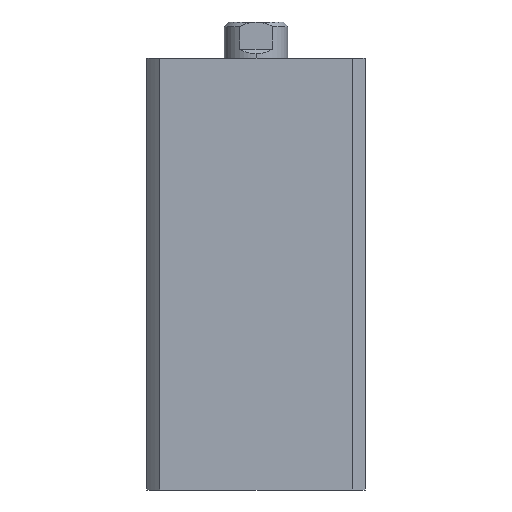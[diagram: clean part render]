
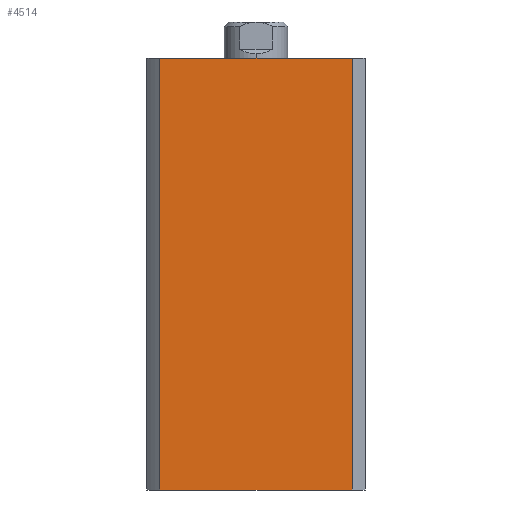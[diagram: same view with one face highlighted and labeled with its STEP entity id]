
A CAD part, left-side view. The second image highlights one B-rep face of the part: STEP entity #4514.
In plain terms, the highlighted planar face has unit normal (-1, 0, 0).
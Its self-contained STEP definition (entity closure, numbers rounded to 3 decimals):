
#656 = CARTESIAN_POINT ( 'NONE',  ( -24., 0., 95. ) ) ;
#659 = PLANE ( 'NONE',  #2327 ) ;
#661 = DIRECTION ( 'NONE',  ( 1., 0., 0. ) ) ;
#662 = DIRECTION ( 'NONE',  ( 0., 0., -1. ) ) ;
#1577 = LINE ( 'NONE', #3749, #1581 ) ;
#1581 = VECTOR ( 'NONE', #3754, 1000. ) ;
#1620 = LINE ( 'NONE', #3617, #1625 ) ;
#1621 = LINE ( 'NONE', #3631, #1623 ) ;
#1622 = LINE ( 'NONE', #3618, #1627 ) ;
#1623 = VECTOR ( 'NONE', #3624, 1000. ) ;
#1625 = VECTOR ( 'NONE', #3612, 1000. ) ;
#1627 = VECTOR ( 'NONE', #3609, 1000. ) ;
#2327 = AXIS2_PLACEMENT_3D ( 'NONE', #656, #661, #662 ) ;
#2430 = EDGE_CURVE ( 'NONE', #4233, #4063, #1577, .T. ) ;
#2676 = EDGE_CURVE ( 'NONE', #3423, #3354, #1621, .T. ) ;
#2677 = EDGE_CURVE ( 'NONE', #4063, #3354, #1620, .T. ) ;
#2678 = EDGE_CURVE ( 'NONE', #4233, #3423, #1622, .T. ) ;
#2930 = FACE_OUTER_BOUND ( 'NONE', #3986, .T. ) ;
#3354 = VERTEX_POINT ( 'NONE', #3811 ) ;
#3423 = VERTEX_POINT ( 'NONE', #4537 ) ;
#3609 = DIRECTION ( 'NONE',  ( 0., 0., -1. ) ) ;
#3612 = DIRECTION ( 'NONE',  ( 0., 0., -1. ) ) ;
#3617 = CARTESIAN_POINT ( 'NONE',  ( -24., -21.166, 95. ) ) ;
#3618 = CARTESIAN_POINT ( 'NONE',  ( -24., 21.166, 95. ) ) ;
#3624 = DIRECTION ( 'NONE',  ( 0., -1., 0. ) ) ;
#3631 = CARTESIAN_POINT ( 'NONE',  ( -24., 0., 0. ) ) ;
#3749 = CARTESIAN_POINT ( 'NONE',  ( -24., 0., 95. ) ) ;
#3754 = DIRECTION ( 'NONE',  ( 0., -1., 0. ) ) ;
#3811 = CARTESIAN_POINT ( 'NONE',  ( -24., -21.166, 0. ) ) ;
#3827 = ORIENTED_EDGE ( 'NONE', *, *, #2678, .T. ) ;
#3828 = ORIENTED_EDGE ( 'NONE', *, *, #2430, .F. ) ;
#3829 = ORIENTED_EDGE ( 'NONE', *, *, #2677, .F. ) ;
#3830 = ORIENTED_EDGE ( 'NONE', *, *, #2676, .T. ) ;
#3986 = EDGE_LOOP ( 'NONE', ( #3830, #3829, #3828, #3827 ) ) ;
#4063 = VERTEX_POINT ( 'NONE', #4844 ) ;
#4233 = VERTEX_POINT ( 'NONE', #4903 ) ;
#4514 = ADVANCED_FACE ( 'NONE', ( #2930 ), #659, .F. ) ;
#4537 = CARTESIAN_POINT ( 'NONE',  ( -24., 21.166, 0. ) ) ;
#4844 = CARTESIAN_POINT ( 'NONE',  ( -24., -21.166, 95. ) ) ;
#4903 = CARTESIAN_POINT ( 'NONE',  ( -24., 21.166, 95. ) ) ;
